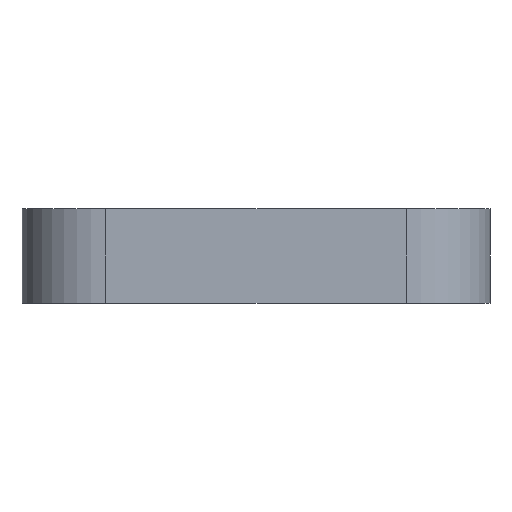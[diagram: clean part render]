
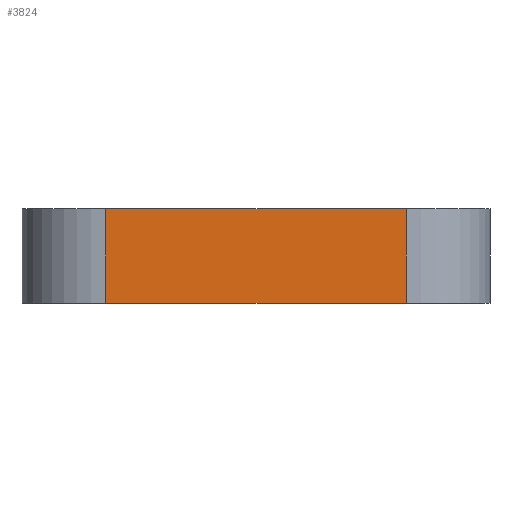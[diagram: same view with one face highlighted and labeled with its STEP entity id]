
A CAD part, front view. The second image highlights one B-rep face of the part: STEP entity #3824.
In plain terms, the highlighted planar face has unit normal (0, -1, 0).
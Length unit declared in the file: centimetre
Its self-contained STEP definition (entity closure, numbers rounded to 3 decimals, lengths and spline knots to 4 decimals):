
#685=ORIENTED_EDGE('',*,*,#1819,.T.);
#686=ORIENTED_EDGE('',*,*,#1817,.T.);
#687=ORIENTED_EDGE('',*,*,#1833,.F.);
#688=ORIENTED_EDGE('',*,*,#1610,.F.);
#1610=EDGE_CURVE('',#2207,#2208,#2605,.T.);
#1817=EDGE_CURVE('',#2399,#2405,#2686,.T.);
#1819=EDGE_CURVE('',#2207,#2399,#2688,.F.);
#1833=EDGE_CURVE('',#2208,#2405,#2698,.T.);
#2207=VERTEX_POINT('',#5038);
#2208=VERTEX_POINT('',#5039);
#2399=VERTEX_POINT('',#5582);
#2405=VERTEX_POINT('',#5594);
#2605=LINE('',#5037,#2932);
#2686=LINE('',#5595,#3013);
#2688=LINE('',#5598,#3015);
#2698=LINE('',#5626,#3025);
#2932=VECTOR('',#4262,100.);
#3013=VECTOR('',#4473,100.);
#3015=VECTOR('',#4477,100.);
#3025=VECTOR('',#4507,100.);
#3291=EDGE_LOOP('',(#685,#686,#687,#688));
#3524=FACE_BOUND('',#3291,.T.);
#3735=PLANE('',#4111);
#3824=ADVANCED_FACE('',(#3524),#3735,.F.);
#4111=AXIS2_PLACEMENT_3D('',#5627,#4508,#4509);
#4262=DIRECTION('',(1.,0.,0.));
#4473=DIRECTION('',(1.,0.,0.));
#4477=DIRECTION('',(0.,0.,1.));
#4507=DIRECTION('',(0.,0.,-1.));
#4508=DIRECTION('',(0.,1.,0.));
#4509=DIRECTION('',(0.,0.,1.));
#5037=CARTESIAN_POINT('',(0.0005,-1.3856,0.59));
#5038=CARTESIAN_POINT('',(-0.939,-1.3856,0.59));
#5039=CARTESIAN_POINT('',(0.94,-1.3856,0.59));
#5582=CARTESIAN_POINT('',(-0.939,-1.3856,0.));
#5594=CARTESIAN_POINT('',(0.94,-1.3856,0.));
#5595=CARTESIAN_POINT('',(0.0005,-1.3856,0.));
#5598=CARTESIAN_POINT('',(-0.939,-1.3856,0.43));
#5626=CARTESIAN_POINT('',(0.94,-1.3856,0.43));
#5627=CARTESIAN_POINT('',(0.0005,-1.3856,0.43));
